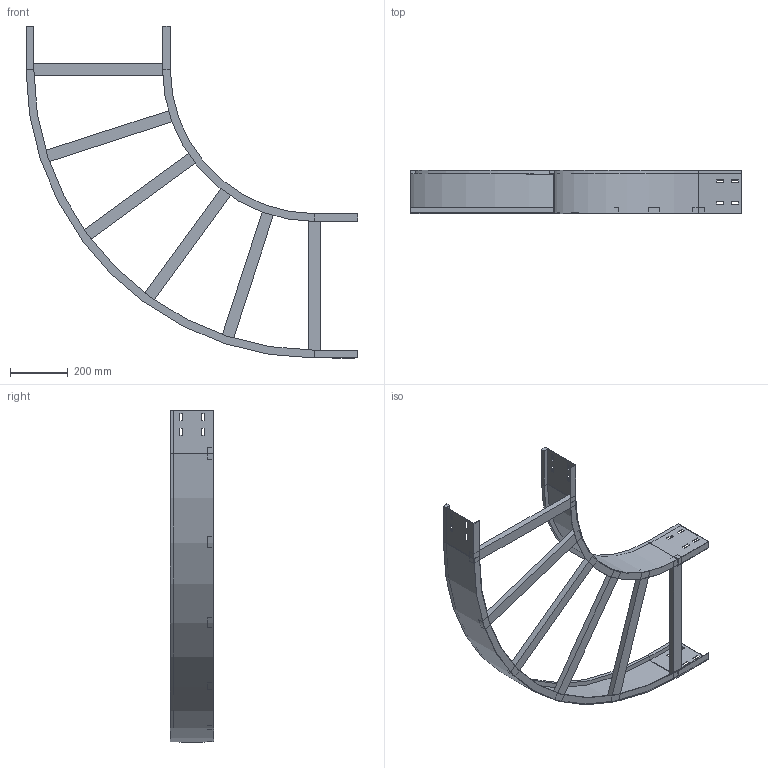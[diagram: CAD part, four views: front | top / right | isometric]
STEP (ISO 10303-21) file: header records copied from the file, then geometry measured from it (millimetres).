
FILE_DESCRIPTION (( 'STEP AP214' ), '1' );
FILE_NAME ('10J5F500.step', '2025-02-21T16:25:18', ( '' ), ( '' ), 'SwSTEP 2.0', 'SolidWorks 2023', '' );
FILE_SCHEMA (( 'AUTOMOTIVE_DESIGN' ));
Length unit declared in the file: millimetre
Products named in the file (4): LONGH.ESTERNO 90°_H150_R500+500; TRAVERSINO_500; 10J5F500; LONGH.INTERNO 90°_H150_R500
Assembly tree (8 placements, depth 2):
  10J5F500
    LONGH.INTERNO 90°_H150_R500
    LONGH.ESTERNO 90°_H150_R500+500
    TRAVERSINO_500  x6
Bounding box: 1150 x 150 x 1150 mm (x, y, z)
Volume: 4005617.4 mm3; surface area: 1508051.1 mm2
Topology: 8 solids, 8 shells, 152 faces, 376 edges, 240 vertices
Faces by surface type: plane 144, cylinder 8
Entity records: 3845 total; most frequent: CARTESIAN_POINT 649, ORIENTED_EDGE 632, DIRECTION 598, EDGE_CURVE 316, LINE 300, VECTOR 300, VERTEX_POINT 200, EDGE_LOOP 154
